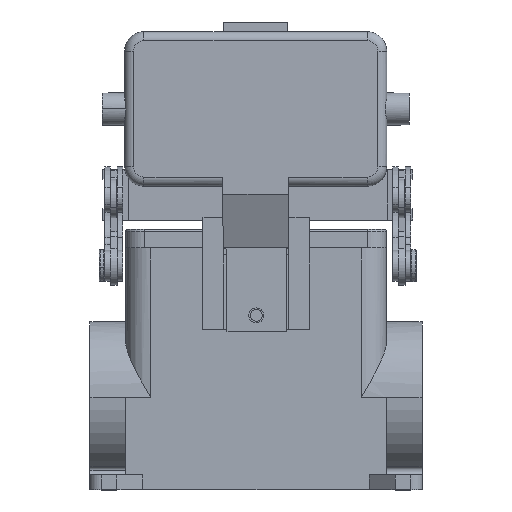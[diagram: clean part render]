
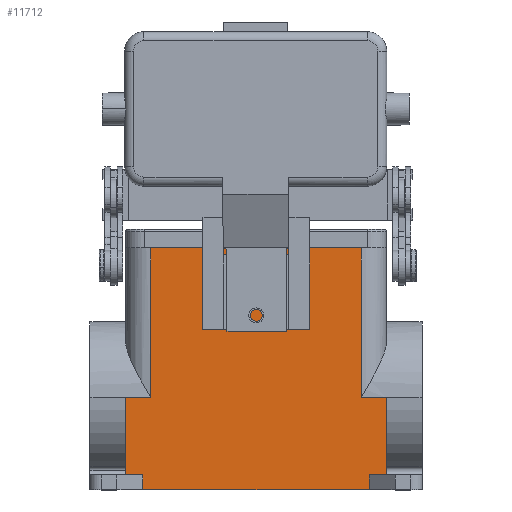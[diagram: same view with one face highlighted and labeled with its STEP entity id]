
A CAD part, top view. The second image highlights one B-rep face of the part: STEP entity #11712.
In plain terms, the highlighted planar face has unit normal (0, 0, 1).
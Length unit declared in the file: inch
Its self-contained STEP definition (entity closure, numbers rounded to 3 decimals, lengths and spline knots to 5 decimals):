
#2702 = CARTESIAN_POINT ( 'NONE',  ( 1.445, 1.01728, 0.8455 ) ) ;
#2703 = DIRECTION ( 'NONE',  ( -1., 0., 0. ) ) ;
#2704 = VECTOR ( 'NONE', #2703, 39.37008 ) ;
#2705 = CARTESIAN_POINT ( 'NONE',  ( -1.8387, 1.01728, 0.8455 ) ) ;
#2706 = LINE ( 'NONE', #2705, #2704 ) ;
#3008 = CARTESIAN_POINT ( 'NONE',  ( 1.165, 1.01728, 0.8455 ) ) ;
#3222 = CARTESIAN_POINT ( 'NONE',  ( -1.165, 1.01728, 0.8455 ) ) ;
#10256 = EDGE_CURVE ( 'NONE', #10257, #10334, #2706, .T. ) ;
#10257 = VERTEX_POINT ( 'NONE', #2702 ) ;
#10334 = VERTEX_POINT ( 'NONE', #3008 ) ;
#10396 = VERTEX_POINT ( 'NONE', #3222 ) ;
#10515 = VERTEX_POINT ( 'NONE', #14628 ) ;
#10517 = EDGE_CURVE ( 'NONE', #10396, #10515, #14691, .T. ) ;
#11136 = EDGE_CURVE ( 'NONE', #11137, #10515, #16678, .T. ) ;
#11137 = VERTEX_POINT ( 'NONE', #16674 ) ;
#11477 = EDGE_CURVE ( 'NONE', #10396, #11478, #17650, .T. ) ;
#11478 = VERTEX_POINT ( 'NONE', #17646 ) ;
#11617 = ORIENTED_EDGE ( 'NONE', *, *, #11618, .T. ) ;
#11618 = EDGE_CURVE ( 'NONE', #10334, #11619, #18049, .T. ) ;
#11619 = VERTEX_POINT ( 'NONE', #18104 ) ;
#11620 = EDGE_CURVE ( 'NONE', #11627, #11661, #18103, .T. ) ;
#11622 = ORIENTED_EDGE ( 'NONE', *, *, #11626, .T. ) ;
#11626 = EDGE_CURVE ( 'NONE', #11627, #11637, #18094, .T. ) ;
#11627 = VERTEX_POINT ( 'NONE', #18090 ) ;
#11635 = ORIENTED_EDGE ( 'NONE', *, *, #10256, .T. ) ;
#11637 = VERTEX_POINT ( 'NONE', #18151 ) ;
#11647 = ORIENTED_EDGE ( 'NONE', *, *, #11648, .T. ) ;
#11648 = EDGE_CURVE ( 'NONE', #11664, #10257, #18164, .T. ) ;
#11661 = VERTEX_POINT ( 'NONE', #18199 ) ;
#11662 = ORIENTED_EDGE ( 'NONE', *, *, #11663, .T. ) ;
#11663 = EDGE_CURVE ( 'NONE', #11637, #11664, #18198, .T. ) ;
#11664 = VERTEX_POINT ( 'NONE', #18194 ) ;
#11677 = ORIENTED_EDGE ( 'NONE', *, *, #11678, .T. ) ;
#11678 = EDGE_CURVE ( 'NONE', #11619, #11478, #18266, .T. ) ;
#11679 = ORIENTED_EDGE ( 'NONE', *, *, #11477, .F. ) ;
#11687 = EDGE_CURVE ( 'NONE', #11137, #11716, #18287, .T. ) ;
#11701 = ORIENTED_EDGE ( 'NONE', *, *, #10517, .T. ) ;
#11703 = ORIENTED_EDGE ( 'NONE', *, *, #11136, .F. ) ;
#11704 = ORIENTED_EDGE ( 'NONE', *, *, #11687, .T. ) ;
#11712 = ADVANCED_FACE ( 'NONE', ( #18378 ), #18414, .F. ) ;
#11716 = VERTEX_POINT ( 'NONE', #18405 ) ;
#11727 = EDGE_CURVE ( 'NONE', #11661, #11716, #18422, .T. ) ;
#11728 = ORIENTED_EDGE ( 'NONE', *, *, #11727, .F. ) ;
#11729 = ORIENTED_EDGE ( 'NONE', *, *, #11620, .F. ) ;
#11730 = EDGE_LOOP ( 'NONE', ( #11728, #11729, #11622, #11662, #11647, #11635, #11617, #11677, #11679, #11701, #11703, #11704 ) ) ;
#14628 = CARTESIAN_POINT ( 'NONE',  ( -1.445, 1.01728, 0.8455 ) ) ;
#14688 = DIRECTION ( 'NONE',  ( -1., 0., 0. ) ) ;
#14689 = VECTOR ( 'NONE', #14688, 39.37008 ) ;
#14690 = CARTESIAN_POINT ( 'NONE',  ( -1.8387, 1.01728, 0.8455 ) ) ;
#14691 = LINE ( 'NONE', #14690, #14689 ) ;
#16674 = CARTESIAN_POINT ( 'NONE',  ( -1.445, 0.165, 0.8455 ) ) ;
#16675 = DIRECTION ( 'NONE',  ( 0., 1., 0. ) ) ;
#16676 = VECTOR ( 'NONE', #16675, 39.37008 ) ;
#16677 = CARTESIAN_POINT ( 'NONE',  ( -1.445, -2.31923, 0.8455 ) ) ;
#16678 = LINE ( 'NONE', #16677, #16676 ) ;
#17646 = CARTESIAN_POINT ( 'NONE',  ( -1.165, 2.67717, 0.8455 ) ) ;
#17647 = DIRECTION ( 'NONE',  ( 0., 1., 0. ) ) ;
#17648 = VECTOR ( 'NONE', #17647, 39.37008 ) ;
#17649 = CARTESIAN_POINT ( 'NONE',  ( -1.165, -0.00004, 0.8455 ) ) ;
#17650 = LINE ( 'NONE', #17649, #17648 ) ;
#18048 = CARTESIAN_POINT ( 'NONE',  ( 1.165, -0.00004, 0.8455 ) ) ;
#18049 = LINE ( 'NONE', #18048, #18106 ) ;
#18090 = CARTESIAN_POINT ( 'NONE',  ( 1.255, 0., 0.8455 ) ) ;
#18091 = DIRECTION ( 'NONE',  ( 0., 1., 0. ) ) ;
#18092 = VECTOR ( 'NONE', #18091, 39.37008 ) ;
#18093 = CARTESIAN_POINT ( 'NONE',  ( 1.255, 0., 0.8455 ) ) ;
#18094 = LINE ( 'NONE', #18093, #18092 ) ;
#18100 = DIRECTION ( 'NONE',  ( -1., 0., 0. ) ) ;
#18101 = VECTOR ( 'NONE', #18100, 39.37008 ) ;
#18102 = CARTESIAN_POINT ( 'NONE',  ( -1.255, 0., 0.8455 ) ) ;
#18103 = LINE ( 'NONE', #18102, #18101 ) ;
#18104 = CARTESIAN_POINT ( 'NONE',  ( 1.165, 2.67717, 0.8455 ) ) ;
#18105 = DIRECTION ( 'NONE',  ( 0., 1., 0. ) ) ;
#18106 = VECTOR ( 'NONE', #18105, 39.37008 ) ;
#18151 = CARTESIAN_POINT ( 'NONE',  ( 1.255, 0.165, 0.8455 ) ) ;
#18159 = CARTESIAN_POINT ( 'NONE',  ( 1.445, -2.31923, 0.8455 ) ) ;
#18164 = LINE ( 'NONE', #18159, #18216 ) ;
#18194 = CARTESIAN_POINT ( 'NONE',  ( 1.445, 0.165, 0.8455 ) ) ;
#18195 = DIRECTION ( 'NONE',  ( 1., 0., 0. ) ) ;
#18196 = VECTOR ( 'NONE', #18195, 39.37008 ) ;
#18197 = CARTESIAN_POINT ( 'NONE',  ( 1.445, 0.165, 0.8455 ) ) ;
#18198 = LINE ( 'NONE', #18197, #18196 ) ;
#18199 = CARTESIAN_POINT ( 'NONE',  ( -1.255, 0., 0.8455 ) ) ;
#18215 = DIRECTION ( 'NONE',  ( 0., 1., 0. ) ) ;
#18216 = VECTOR ( 'NONE', #18215, 39.37008 ) ;
#18263 = DIRECTION ( 'NONE',  ( -1., 0., 0. ) ) ;
#18264 = VECTOR ( 'NONE', #18263, 39.37008 ) ;
#18265 = CARTESIAN_POINT ( 'NONE',  ( -1.255, 2.67717, 0.8455 ) ) ;
#18266 = LINE ( 'NONE', #18265, #18264 ) ;
#18284 = DIRECTION ( 'NONE',  ( 1., 0., 0. ) ) ;
#18285 = VECTOR ( 'NONE', #18284, 39.37008 ) ;
#18286 = CARTESIAN_POINT ( 'NONE',  ( -1.445, 0.165, 0.8455 ) ) ;
#18287 = LINE ( 'NONE', #18286, #18285 ) ;
#18378 = FACE_OUTER_BOUND ( 'NONE', #11730, .T. ) ;
#18405 = CARTESIAN_POINT ( 'NONE',  ( -1.255, 0.165, 0.8455 ) ) ;
#18410 = DIRECTION ( 'NONE',  ( -1., 0., 0. ) ) ;
#18411 = DIRECTION ( 'NONE',  ( 0., 0., -1. ) ) ;
#18412 = CARTESIAN_POINT ( 'NONE',  ( -1.255, 0., 0.8455 ) ) ;
#18413 = AXIS2_PLACEMENT_3D ( 'NONE', #18412, #18411, #18410 ) ;
#18414 = PLANE ( 'NONE',  #18413 ) ;
#18419 = DIRECTION ( 'NONE',  ( 0., 1., 0. ) ) ;
#18420 = VECTOR ( 'NONE', #18419, 39.37008 ) ;
#18421 = CARTESIAN_POINT ( 'NONE',  ( -1.255, 0., 0.8455 ) ) ;
#18422 = LINE ( 'NONE', #18421, #18420 ) ;
